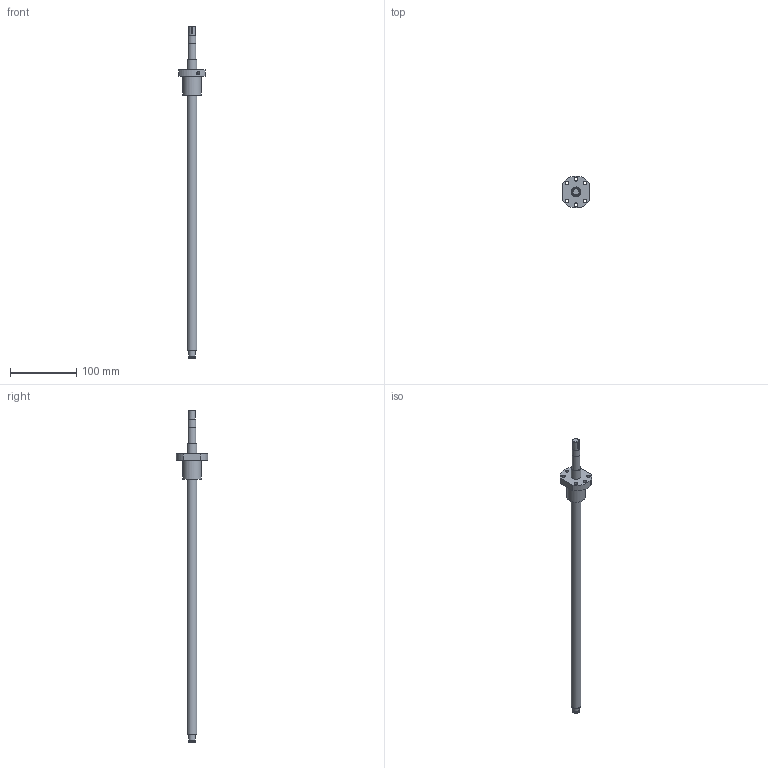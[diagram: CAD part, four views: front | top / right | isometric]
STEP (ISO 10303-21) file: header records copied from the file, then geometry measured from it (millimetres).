
FILE_DESCRIPTION(/* description */ ('Unknown'),/* implementation_level */ '2;1');
FILE_NAME(/* name */ 'SFSUR1505-438-500L-C5',/* time_stamp */ '2025-06-19T11:19:20+08:00',/* author */ ('Unknown'),/* organization */ ('Unknown'),/* preprocessor_version */ 'ST-DEVELOPER v18.102',/* originating_system */ 'Solid Edge',/* authorisation */ 'Unknown');
FILE_SCHEMA (('AUTOMOTIVE_DESIGN {1 0 10303 214 3 1 1}'));
Length unit declared in the file: millimetre
Products named in the file (3): SFSUR1505-438-500L-C5.par; SFSUR1505-438-500L; SFE1505
Assembly tree (2 placements, depth 2):
  SFSUR1505-438-500L-C5.par
    SFSUR1505-438-500L
    SFE1505
Bounding box: 40 x 48 x 500 mm (x, y, z)
Volume: 108886.7 mm3; surface area: 32884.1 mm2
Topology: 2 solids, 2 shells, 37 faces, 85 edges, 58 vertices
Faces by surface type: cylinder 20, plane 15, torus 2
Full cylindrical faces by diameter (mm): 4.917 x2, 5.5 x6, 9.6 x1, 10 x3, 12 x2, 15 x2, 28 x1
Entity records: 1281 total; most frequent: CARTESIAN_POINT 181, DIRECTION 171, ORIENTED_EDGE 118, EDGE_LOOP 77, FACE_BOUND 77, AXIS2_PLACEMENT_3D 77, EDGE_CURVE 59, VERTEX_POINT 50
